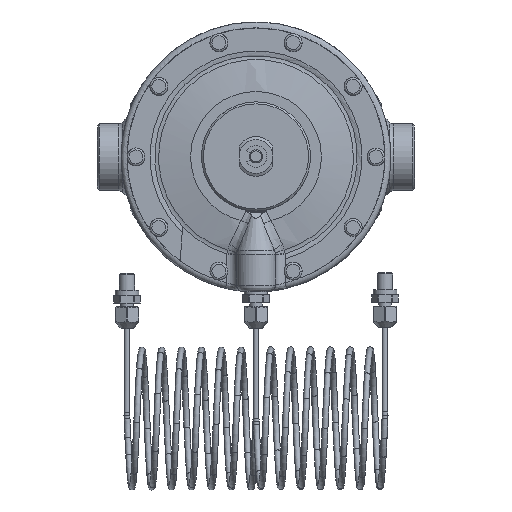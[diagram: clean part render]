
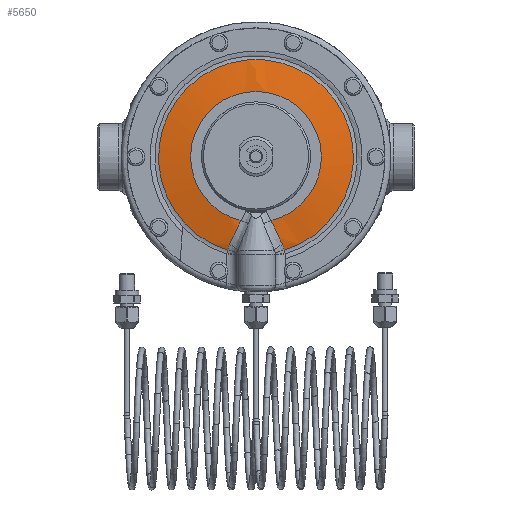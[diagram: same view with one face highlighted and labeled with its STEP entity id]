
A CAD part, top view. The second image highlights one B-rep face of the part: STEP entity #5650.
In plain terms, the highlighted free-form (B-spline) face has degree [3, 3] with [4, 7] control points.
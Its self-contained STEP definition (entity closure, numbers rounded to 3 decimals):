
#3285=CIRCLE('',#19856,32.941);
#3301=CIRCLE('',#19877,49.087);
#5650=ADVANCED_FACE('',(#6863),#6266,.T.);
#6266=(
BOUNDED_SURFACE()
B_SPLINE_SURFACE(3,3,((#44010,#44011,#44012,#44013,#44014,#44015,#44016),
(#44017,#44018,#44019,#44020,#44021,#44022,#44023),(#44024,#44025,#44026,
#44027,#44028,#44029,#44030),(#44031,#44032,#44033,#44034,#44035,#44036,
#44037)),.UNSPECIFIED.,.F.,.F.,.F.)
B_SPLINE_SURFACE_WITH_KNOTS((4,4),(4,3,4),(0.,1.),(0.,0.5,1.),.UNSPECIFIED.)
GEOMETRIC_REPRESENTATION_ITEM()
RATIONAL_B_SPLINE_SURFACE(((1.,0.398,0.398,1.,0.398,
0.398,1.),(0.991,0.395,0.395,
0.991,0.395,0.395,0.991),
(0.991,0.395,0.395,0.991,
0.395,0.395,0.991),(1.,0.398,
0.398,1.,0.398,0.398,1.)))
REPRESENTATION_ITEM('')
SURFACE()
);
#6863=FACE_OUTER_BOUND('',#8067,.T.);
#8067=EDGE_LOOP('',(#12253,#12254,#12255,#12256,#12257,#12258));
#12253=ORIENTED_EDGE('',*,*,#17142,.T.);
#12254=ORIENTED_EDGE('',*,*,#17143,.T.);
#12255=ORIENTED_EDGE('',*,*,#17144,.T.);
#12256=ORIENTED_EDGE('',*,*,#17105,.T.);
#12257=ORIENTED_EDGE('',*,*,#17145,.T.);
#12258=ORIENTED_EDGE('',*,*,#17146,.T.);
#14841=VERTEX_POINT('',#43784);
#14842=VERTEX_POINT('',#43786);
#14872=VERTEX_POINT('',#43990);
#14873=VERTEX_POINT('',#43991);
#14874=VERTEX_POINT('',#43996);
#14875=VERTEX_POINT('',#44005);
#17105=EDGE_CURVE('',#14842,#14841,#3285,.T.);
#17142=EDGE_CURVE('',#14872,#14873,#3301,.T.);
#17143=EDGE_CURVE('',#14873,#14874,#18349,.T.);
#17144=EDGE_CURVE('',#14874,#14842,#18350,.T.);
#17145=EDGE_CURVE('',#14841,#14875,#18351,.T.);
#17146=EDGE_CURVE('',#14875,#14872,#18352,.T.);
#18349=B_SPLINE_CURVE_WITH_KNOTS('',3,(#43992,#43993,#43994,#43995),.UNSPECIFIED.,
 .F.,.F.,(4,4),(0.,1.),.UNSPECIFIED.);
#18350=B_SPLINE_CURVE_WITH_KNOTS('',3,(#43997,#43998,#43999,#44000),.UNSPECIFIED.,
 .F.,.F.,(4,4),(0.,1.),.UNSPECIFIED.);
#18351=B_SPLINE_CURVE_WITH_KNOTS('',3,(#44001,#44002,#44003,#44004),.UNSPECIFIED.,
 .F.,.F.,(4,4),(0.,1.),.UNSPECIFIED.);
#18352=B_SPLINE_CURVE_WITH_KNOTS('',3,(#44006,#44007,#44008,#44009),.UNSPECIFIED.,
 .F.,.F.,(4,4),(0.,1.),.UNSPECIFIED.);
#19856=AXIS2_PLACEMENT_3D('',#43785,#24088,#24089);
#19877=AXIS2_PLACEMENT_3D('',#43989,#24138,#24139);
#24088=DIRECTION('',(0.,0.,-1.));
#24089=DIRECTION('',(-1.,0.,0.));
#24138=DIRECTION('',(0.,0.,1.));
#24139=DIRECTION('',(-1.,0.,0.));
#43784=CARTESIAN_POINT('',(7.52,-32.071,100.));
#43785=CARTESIAN_POINT('',(0.,0.,100.));
#43786=CARTESIAN_POINT('',(-7.52,-32.071,100.));
#43989=CARTESIAN_POINT('',(0.,0.,97.321));
#43990=CARTESIAN_POINT('',(14.207,-46.986,97.321));
#43991=CARTESIAN_POINT('',(-14.207,-46.986,97.321));
#43992=CARTESIAN_POINT('',(-14.207,-46.986,97.321));
#43993=CARTESIAN_POINT('',(-14.1,-45.982,97.66));
#43994=CARTESIAN_POINT('',(-13.828,-45.014,97.968));
#43995=CARTESIAN_POINT('',(-13.389,-44.083,98.245));
#43996=CARTESIAN_POINT('',(-13.389,-44.083,98.245));
#43997=CARTESIAN_POINT('',(-13.389,-44.083,98.245));
#43998=CARTESIAN_POINT('',(-11.521,-40.123,99.424));
#43999=CARTESIAN_POINT('',(-9.483,-36.158,100.));
#44000=CARTESIAN_POINT('',(-7.52,-32.071,100.));
#44001=CARTESIAN_POINT('',(7.52,-32.071,100.));
#44002=CARTESIAN_POINT('',(9.483,-36.158,100.));
#44003=CARTESIAN_POINT('',(11.521,-40.123,99.424));
#44004=CARTESIAN_POINT('',(13.389,-44.083,98.245));
#44005=CARTESIAN_POINT('',(13.389,-44.083,98.245));
#44006=CARTESIAN_POINT('',(13.389,-44.083,98.245));
#44007=CARTESIAN_POINT('',(13.828,-45.014,97.968));
#44008=CARTESIAN_POINT('',(14.1,-45.982,97.66));
#44009=CARTESIAN_POINT('',(14.207,-46.986,97.321));
#44010=CARTESIAN_POINT('',(-9.53,-48.153,97.321));
#44011=CARTESIAN_POINT('',(-89.731,-32.28,97.321));
#44012=CARTESIAN_POINT('',(-81.757,49.087,97.321));
#44013=CARTESIAN_POINT('',(0.,49.087,97.321));
#44014=CARTESIAN_POINT('',(81.757,49.087,97.321));
#44015=CARTESIAN_POINT('',(89.731,-32.28,97.321));
#44016=CARTESIAN_POINT('',(9.53,-48.153,97.321));
#44017=CARTESIAN_POINT('',(-8.519,-43.042,99.099));
#44018=CARTESIAN_POINT('',(-80.207,-28.854,99.099));
#44019=CARTESIAN_POINT('',(-73.079,43.877,99.099));
#44020=CARTESIAN_POINT('',(0.,43.877,99.099));
#44021=CARTESIAN_POINT('',(73.079,43.877,99.099));
#44022=CARTESIAN_POINT('',(80.207,-28.854,99.099));
#44023=CARTESIAN_POINT('',(8.519,-43.042,99.099));
#44024=CARTESIAN_POINT('',(-7.464,-37.715,100.));
#44025=CARTESIAN_POINT('',(-70.28,-25.283,100.));
#44026=CARTESIAN_POINT('',(-64.034,38.446,100.));
#44027=CARTESIAN_POINT('',(0.,38.446,100.));
#44028=CARTESIAN_POINT('',(64.034,38.446,100.));
#44029=CARTESIAN_POINT('',(70.28,-25.283,100.));
#44030=CARTESIAN_POINT('',(7.464,-37.715,100.));
#44031=CARTESIAN_POINT('',(-6.395,-32.314,100.));
#44032=CARTESIAN_POINT('',(-60.217,-21.662,100.));
#44033=CARTESIAN_POINT('',(-54.865,32.941,100.));
#44034=CARTESIAN_POINT('',(0.,32.941,100.));
#44035=CARTESIAN_POINT('',(54.865,32.941,100.));
#44036=CARTESIAN_POINT('',(60.217,-21.662,100.));
#44037=CARTESIAN_POINT('',(6.395,-32.314,100.));
